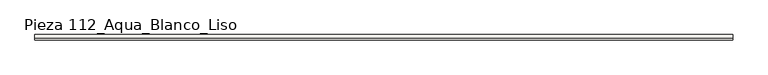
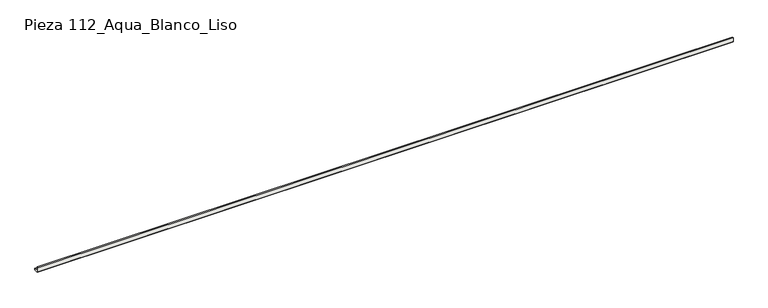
"""IFC4 building model written with IfcOpenShell, lengths in millimetres: slab geometry, ROSA GRES_112 : Pieza 112_Aqua_Blanco_Liso."""

from ifc_helpers import new_model, si_unit, point, frame, frame_2d, origin, place, context, project, spatial, polyline, circle_curve, trimmed, segment, composite_curve, outline, extrude, source, transform, mapped, element, save


def pieza_112_aqua_blanco_liso_455163e1(model_context):
    return source(origin(), model_context, "Body", "SweptSolid", [
        extrude(outline(composite_curve([segment(polyline([(0.0, 8.7114978), (0.0, 40.0), (9.9734114, 40.0)]), True, "CONTINUOUS"), segment(trimmed(circle_curve(frame_2d((39.9955547, 39.9955547)), 30.0221435), [point((9.9734114, 40.0))], [point((40.0, 9.9734114))], True, "CARTESIAN"), True, "CONTINUOUS"), segment(polyline([(40.0, 9.9734114), (40.0, 0.0), (8.7114978, 0.0), (0.0, 8.7114978)]), True, "CONTINUOUS")], self_intersect=False)), frame((0.0, 0.0, 0.0), z_axis=(1.0, 0.0, 0.0), x_axis=(0.0, 1.0, 0.0)), (0.0, 0.0, 1.0), 5219.9468229),
    ])


if __name__ == "__main__":
    model = new_model("IFC4")
    model_context = context("Model", 3, world=origin())
    ifc_project = project(units=[si_unit("LENGTHUNIT", "METRE", prefix="MILLI")], contexts=[model_context])
    site = spatial("IfcSite", under=ifc_project)
    building = spatial("IfcBuilding", under=site)
    placement = place(None, origin())
    pieza_112_aqua_blanco_liso_shape = pieza_112_aqua_blanco_liso_455163e1(model_context)
    element("IfcSlab", 1, ObjectType="ROSA GRES_112 : Pieza 112_Aqua_Blanco_Liso", at=placement, inside=building, context=model_context, shape_type="MappedRepresentation", body=[
        mapped(pieza_112_aqua_blanco_liso_shape, transform((0.0, 0.0, 0.0), x_axis=(1.0, 0.0, 0.0), y_axis=(0.0, 1.0, 0.0), z_axis=(0.0, 0.0, 1.0))),
    ])
    save(model, "model.ifc")
